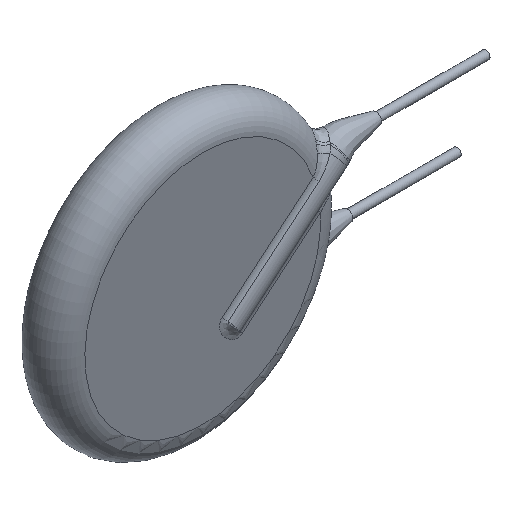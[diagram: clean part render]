
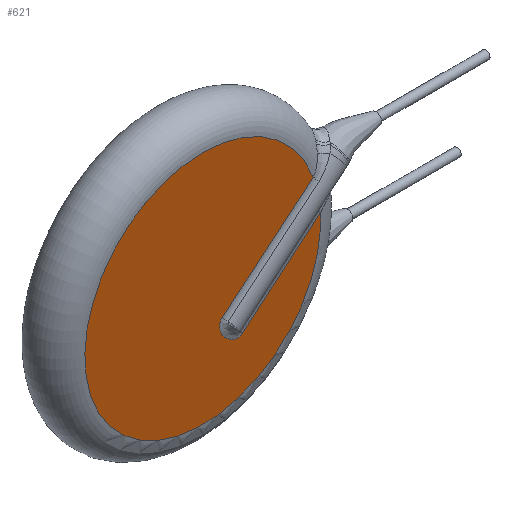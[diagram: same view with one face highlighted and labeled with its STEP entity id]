
A CAD part, isometric view. The second image highlights one B-rep face of the part: STEP entity #621.
In plain terms, the highlighted planar face has unit normal (0, -1, 0).
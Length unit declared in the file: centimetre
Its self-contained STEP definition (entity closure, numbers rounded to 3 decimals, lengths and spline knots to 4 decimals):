
#20=LINE('',#968,#28);
#22=LINE('',#1092,#30);
#28=VECTOR('',#728,0.7451);
#30=VECTOR('',#738,0.8653);
#47=B_SPLINE_CURVE_WITH_KNOTS('',3,(#939,#940,#941,#942,#943,#944,#945,
#946,#947,#948,#949),.UNSPECIFIED.,.F.,.F.,(4,1,1,1,1,1,1,1,4),(0.2956,
0.3272,0.3378,0.38,0.4222,
0.4645,0.5067,0.5489,0.5911),
 .UNSPECIFIED.);
#134=FACE_OUTER_BOUND('',#178,.T.);
#178=EDGE_LOOP('',(#462,#463,#464,#465));
#221=CIRCLE('',#672,0.86);
#245=VERTEX_POINT('',#880);
#248=VERTEX_POINT('',#936);
#249=VERTEX_POINT('',#938);
#251=VERTEX_POINT('',#964);
#303=EDGE_CURVE('',#248,#249,#47,.T.);
#308=EDGE_CURVE('',#249,#251,#20,.T.);
#319=EDGE_CURVE('',#245,#248,#22,.T.);
#342=EDGE_CURVE('',#251,#245,#221,.T.);
#462=ORIENTED_EDGE('',*,*,#308,.F.);
#463=ORIENTED_EDGE('',*,*,#303,.F.);
#464=ORIENTED_EDGE('',*,*,#319,.F.);
#465=ORIENTED_EDGE('',*,*,#342,.F.);
#557=PLANE('',#673);
#621=ADVANCED_FACE('',(#134),#557,.F.);
#672=AXIS2_PLACEMENT_3D('',#1325,#757,#758);
#673=AXIS2_PLACEMENT_3D('',#1326,#759,#760);
#728=DIRECTION('',(0.766,0.,0.643));
#738=DIRECTION('',(-0.766,0.,-0.643));
#757=DIRECTION('center_axis',(0.,1.,0.));
#758=DIRECTION('ref_axis',(-1.,0.,0.));
#759=DIRECTION('center_axis',(0.,1.,0.));
#760=DIRECTION('ref_axis',(1.,0.,0.));
#880=CARTESIAN_POINT('',(0.8052,-0.115,0.3021));
#936=CARTESIAN_POINT('',(0.1424,-0.115,-0.2541));
#938=CARTESIAN_POINT('',(0.2877,-0.115,-0.4272));
#939=CARTESIAN_POINT('Ctrl Pts',(0.1424,-0.115,-0.2541));
#940=CARTESIAN_POINT('Ctrl Pts',(0.1343,-0.115,-0.2608));
#941=CARTESIAN_POINT('Ctrl Pts',(0.1266,-0.115,-0.2733));
#942=CARTESIAN_POINT('Ctrl Pts',(0.1209,-0.115,-0.301));
#943=CARTESIAN_POINT('Ctrl Pts',(0.1263,-0.115,-0.3331));
#944=CARTESIAN_POINT('Ctrl Pts',(0.1466,-0.115,-0.3703));
#945=CARTESIAN_POINT('Ctrl Pts',(0.1738,-0.115,-0.4029));
#946=CARTESIAN_POINT('Ctrl Pts',(0.2071,-0.115,-0.4291));
#947=CARTESIAN_POINT('Ctrl Pts',(0.2479,-0.115,-0.444));
#948=CARTESIAN_POINT('Ctrl Pts',(0.2769,-0.115,-0.4363));
#949=CARTESIAN_POINT('Ctrl Pts',(0.2877,-0.115,-0.4272));
#964=CARTESIAN_POINT('',(0.8584,-0.115,0.0517));
#968=CARTESIAN_POINT('',(1.0669,-0.115,0.2266));
#1092=CARTESIAN_POINT('',(0.9216,-0.115,0.3998));
#1325=CARTESIAN_POINT('Origin',(0.,-0.115,0.));
#1326=CARTESIAN_POINT('Origin',(0.,-0.115,0.));
